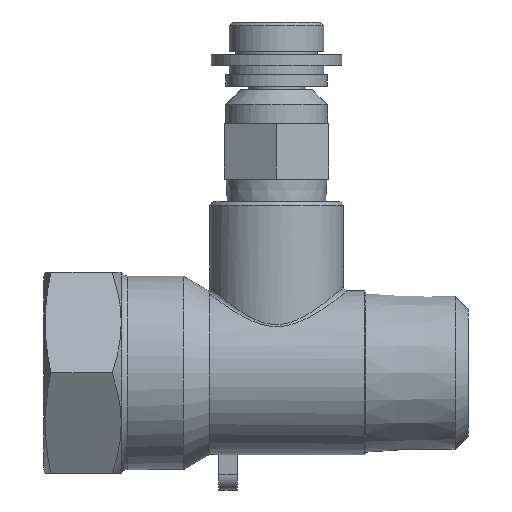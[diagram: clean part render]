
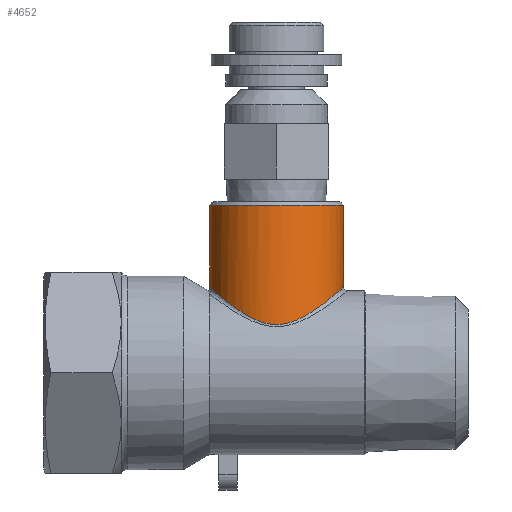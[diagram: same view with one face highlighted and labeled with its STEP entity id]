
A CAD part, left-side view. The second image highlights one B-rep face of the part: STEP entity #4652.
In plain terms, the highlighted cylindrical face has radius 9 mm (diameter 18 mm), a full revolution.
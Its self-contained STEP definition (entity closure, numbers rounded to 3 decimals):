
#3627=CARTESIAN_POINT('',(8.991,25.34,6.495));
#3628=VERTEX_POINT('',#3627);
#4214=CARTESIAN_POINT('',(6.153,32.318,9.49));
#4215=VERTEX_POINT('',#4214);
#4216=CARTESIAN_POINT('',(8.991,25.34,6.495));
#4217=CARTESIAN_POINT('',(8.977,25.031,6.517));
#4218=CARTESIAN_POINT('',(8.916,24.419,6.61));
#4219=CARTESIAN_POINT('',(8.681,23.251,6.956));
#4220=CARTESIAN_POINT('',(8.287,22.162,7.483));
#4221=CARTESIAN_POINT('',(7.772,21.188,8.067));
#4222=CARTESIAN_POINT('',(7.323,20.496,8.524));
#4223=CARTESIAN_POINT('',(6.812,19.849,8.985));
#4224=CARTESIAN_POINT('',(6.178,19.181,9.487));
#4225=CARTESIAN_POINT('',(5.402,18.522,10.007));
#4226=CARTESIAN_POINT('',(4.442,17.893,10.523));
#4227=CARTESIAN_POINT('',(3.383,17.382,10.954));
#4228=CARTESIAN_POINT('',(2.245,17.006,11.277));
#4229=CARTESIAN_POINT('',(1.229,16.817,11.441));
#4230=CARTESIAN_POINT('',(0.408,16.752,11.498));
#4231=CARTESIAN_POINT('',(-0.552,16.741,11.508));
#4232=CARTESIAN_POINT('',(-1.589,16.862,11.402));
#4233=CARTESIAN_POINT('',(-2.761,17.164,11.141));
#4234=CARTESIAN_POINT('',(-3.754,17.542,10.818));
#4235=CARTESIAN_POINT('',(-4.779,18.095,10.356));
#4236=CARTESIAN_POINT('',(-5.695,18.751,9.824));
#4237=CARTESIAN_POINT('',(-6.514,19.507,9.237));
#4238=CARTESIAN_POINT('',(-7.219,20.339,8.629));
#4239=CARTESIAN_POINT('',(-7.824,21.256,8.018));
#4240=CARTESIAN_POINT('',(-8.224,22.064,7.548));
#4241=CARTESIAN_POINT('',(-8.498,22.767,7.199));
#4242=CARTESIAN_POINT('',(-8.693,23.383,6.934));
#4243=CARTESIAN_POINT('',(-8.862,24.116,6.69));
#4244=CARTESIAN_POINT('',(-8.974,24.916,6.521));
#4245=CARTESIAN_POINT('',(-9.013,25.743,6.461));
#4246=CARTESIAN_POINT('',(-8.976,26.565,6.519));
#4247=CARTESIAN_POINT('',(-8.865,27.371,6.687));
#4248=CARTESIAN_POINT('',(-8.702,28.078,6.921));
#4249=CARTESIAN_POINT('',(-8.456,28.873,7.256));
#4250=CARTESIAN_POINT('',(-8.164,29.569,7.622));
#4251=CARTESIAN_POINT('',(-7.732,30.381,8.11));
#4252=CARTESIAN_POINT('',(-7.232,31.144,8.617));
#4253=CARTESIAN_POINT('',(-6.519,31.988,9.233));
#4254=CARTESIAN_POINT('',(-5.906,32.555,9.673));
#4255=CARTESIAN_POINT('',(-5.319,33.018,10.042));
#4256=CARTESIAN_POINT('',(-4.701,33.447,10.39));
#4257=CARTESIAN_POINT('',(-3.758,33.957,10.817));
#4258=CARTESIAN_POINT('',(-2.764,34.335,11.14));
#4259=CARTESIAN_POINT('',(-1.593,34.637,11.401));
#4260=CARTESIAN_POINT('',(-0.53,34.762,11.51));
#4261=CARTESIAN_POINT('',(0.327,34.748,11.498));
#4262=CARTESIAN_POINT('',(0.943,34.708,11.463));
#4263=CARTESIAN_POINT('',(1.634,34.617,11.384));
#4264=CARTESIAN_POINT('',(2.529,34.403,11.199));
#4265=CARTESIAN_POINT('',(3.656,34.012,10.864));
#4266=CARTESIAN_POINT('',(4.564,33.534,10.462));
#4267=CARTESIAN_POINT('',(5.325,33.012,10.037));
#4268=CARTESIAN_POINT('',(5.739,32.691,9.78));
#4269=CARTESIAN_POINT('',(6.026,32.437,9.582));
#4270=CARTESIAN_POINT('',(6.153,32.318,9.49));
#4271=B_SPLINE_CURVE_WITH_KNOTS('',3,(#4216,#4217,#4218,#4219,#4220,#4221,#4222,#4223,#4224,#4225,#4226,#4227,#4228,#4229,#4230,#4231,#4232,#4233,#4234,#4235,#4236,#4237,#4238,#4239,#4240,#4241,#4242,#4243,#4244,#4245,#4246,#4247,#4248,#4249,#4250,#4251,#4252,#4253,#4254,#4255,#4256,#4257,#4258,#4259,#4260,#4261,#4262,#4263,#4264,#4265,#4266,#4267,#4268,#4269,#4270),.UNSPECIFIED.,.F.,.U.,(4,1,1,1,1,1,1,1,1,1,1,1,1,1,1,1,1,1,1,1,1,1,1,1,1,1,1,1,1,1,1,1,1,1,1,1,1,1,1,1,1,1,1,1,1,1,1,1,1,1,1,1,4),(3.593,3.69,3.788,3.983,4.08,4.178,4.276,4.373,4.503,4.633,4.763,4.894,5.024,5.089,5.154,5.327,5.414,5.544,5.674,5.804,5.934,6.065,6.195,6.325,6.382,6.455,6.542,6.628,6.715,6.802,6.889,6.975,7.04,7.17,7.235,7.366,7.496,7.626,7.658,7.756,7.886,8.016,8.103,8.276,8.35,8.374,8.471,8.569,8.667,8.862,8.911,8.984,9.045),.UNSPECIFIED.);
#4272=EDGE_CURVE('',#3628,#4215,#4271,.T.);
#4567=CARTESIAN_POINT('',(6.153,32.318,9.49));
#4568=CARTESIAN_POINT('',(6.409,32.078,9.502));
#4569=CARTESIAN_POINT('',(6.94,31.52,9.507));
#4570=CARTESIAN_POINT('',(7.52,30.725,9.431));
#4571=CARTESIAN_POINT('',(7.932,30.017,9.294));
#4572=CARTESIAN_POINT('',(8.293,29.287,9.104));
#4573=CARTESIAN_POINT('',(8.639,28.361,8.762));
#4574=CARTESIAN_POINT('',(8.894,27.262,8.172));
#4575=CARTESIAN_POINT('',(9.005,26.233,7.413));
#4576=CARTESIAN_POINT('',(9.004,25.625,6.816));
#4577=CARTESIAN_POINT('',(8.991,25.34,6.495));
#4578=B_SPLINE_CURVE_WITH_KNOTS('',3,(#4567,#4568,#4569,#4570,#4571,#4572,#4573,#4574,#4575,#4576,#4577),.UNSPECIFIED.,.F.,.U.,(4,1,1,1,1,1,1,1,4),(8.806,8.916,9.047,9.113,9.179,9.31,9.441,9.572,9.704),.UNSPECIFIED.);
#4579=EDGE_CURVE('',#4215,#3628,#4578,.T.);
#4632=CARTESIAN_POINT('',(0.,25.75,23.));
#4633=DIRECTION('',(0.0,0.0,-1.0));
#4634=DIRECTION('',(-1.0,0.0,0.0));
#4635=AXIS2_PLACEMENT_3D('',#4632,#4633,#4634);
#4636=CYLINDRICAL_SURFACE('',#4635,9.0);
#4637=CARTESIAN_POINT('',(9.,25.75,22.5));
#4638=VERTEX_POINT('',#4637);
#4639=CARTESIAN_POINT('',(0.,25.75,22.5));
#4640=DIRECTION('',(0.0,0.0,1.0));
#4641=DIRECTION('',(-1.0,0.0,0.0));
#4642=AXIS2_PLACEMENT_3D('',#4639,#4640,#4641);
#4643=CIRCLE('',#4642,9.0);
#4644=EDGE_CURVE('',#4638,#4638,#4643,.T.);
#4645=ORIENTED_EDGE('',*,*,#4644,.F.);
#4646=EDGE_LOOP('',(#4645));
#4647=FACE_OUTER_BOUND('',#4646,.T.);
#4648=ORIENTED_EDGE('',*,*,#4272,.F.);
#4649=ORIENTED_EDGE('',*,*,#4579,.F.);
#4650=EDGE_LOOP('',(#4648,#4649));
#4651=FACE_BOUND('',#4650,.T.);
#4652=ADVANCED_FACE('',(#4647,#4651),#4636,.T.);
